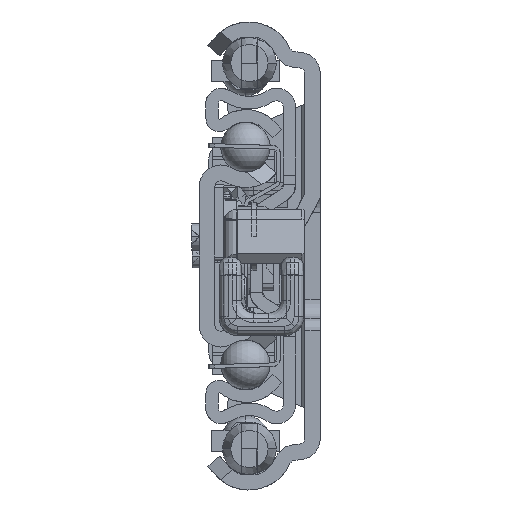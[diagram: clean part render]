
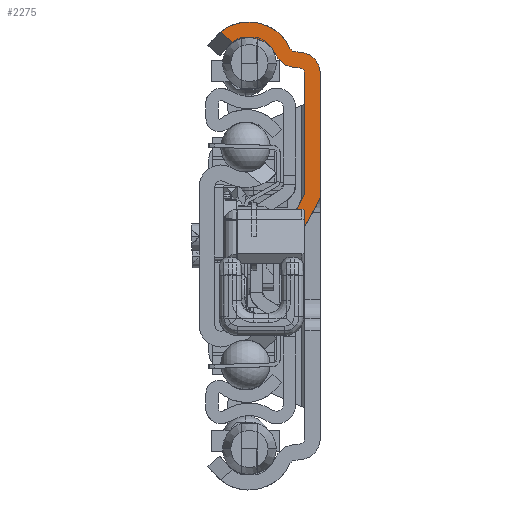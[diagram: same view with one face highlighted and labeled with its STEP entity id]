
A CAD part, left-side view. The second image highlights one B-rep face of the part: STEP entity #2275.
In plain terms, the highlighted planar face has unit normal (-1, 0, 0).
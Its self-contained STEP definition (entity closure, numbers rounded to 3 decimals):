
#1=DIRECTION('',(0.,-0.769,-0.639));
#2=VECTOR('',#1,2.575);
#3=CARTESIAN_POINT('',(0.,16.079,36.021));
#4=LINE('',#3,#2);
#5=CARTESIAN_POINT('',(0.,11.5,30.4));
#6=DIRECTION('',(1.,0.,0.));
#7=DIRECTION('',(0.,0.632,0.775));
#8=AXIS2_PLACEMENT_3D('',#5,#6,#7);
#10=DIRECTION('',(0.,-0.996,-0.087));
#11=VECTOR('',#10,0.904);
#12=CARTESIAN_POINT('',(0.,4.095,32.858));
#13=LINE('',#12,#11);
#14=CARTESIAN_POINT('',(0.,3.5,29.293));
#15=DIRECTION('',(-1.,0.,0.));
#16=DIRECTION('',(0.,-1.,0.));
#17=AXIS2_PLACEMENT_3D('',#14,#15,#16);
#19=CARTESIAN_POINT('',(0.,2.5,9.942));
#20=DIRECTION('',(1.,0.,0.));
#21=DIRECTION('',(0.,-1.,0.));
#22=AXIS2_PLACEMENT_3D('',#19,#20,#21);
#24=DIRECTION('',(0.,-1.,0.));
#25=VECTOR('',#24,2.78);
#26=CARTESIAN_POINT('',(0.,6.177,3.04));
#27=LINE('',#26,#25);
#28=CARTESIAN_POINT('',(0.,0.5,1.099));
#29=DIRECTION('',(-1.,0.,0.));
#30=DIRECTION('',(0.,0.879,0.477));
#31=AXIS2_PLACEMENT_3D('',#28,#29,#30);
#33=DIRECTION('',(0.,0.477,-0.879));
#34=VECTOR('',#33,6.873);
#35=CARTESIAN_POINT('',(0.,2.5,10.));
#36=LINE('',#35,#34);
#37=DIRECTION('',(0.,0.,1.));
#38=VECTOR('',#37,19.293);
#39=CARTESIAN_POINT('',(0.,2.5,10.));
#40=LINE('',#39,#38);
#41=DIRECTION('',(0.,0.996,0.087));
#42=VECTOR('',#41,0.904);
#43=CARTESIAN_POINT('',(0.,3.413,30.289));
#44=LINE('',#43,#42);
#45=CARTESIAN_POINT('',(0.,4.008,33.854));
#46=DIRECTION('',(-1.,0.,0.));
#47=DIRECTION('',(0.,0.908,-0.419));
#48=AXIS2_PLACEMENT_3D('',#45,#46,#47);
#50=CARTESIAN_POINT('',(0.,11.5,30.4));
#51=DIRECTION('',(-1.,0.,0.));
#52=DIRECTION('',(0.,-0.908,0.419));
#53=AXIS2_PLACEMENT_3D('',#50,#51,#52);
#99=CARTESIAN_POINT('',(0.,14.098,34.377));
#147=CARTESIAN_POINT('',(0.,3.5,29.293));
#148=DIRECTION('',(1.,0.,0.));
#149=DIRECTION('',(0.,-0.087,0.996));
#150=AXIS2_PLACEMENT_3D('',#147,#148,#149);
#635=DIRECTION('',(0.,0.,1.));
#636=VECTOR('',#635,19.351);
#637=CARTESIAN_POINT('',(0.,0.,9.942));
#638=LINE('',#637,#636);
#956=CARTESIAN_POINT('',(0.,16.079,
36.021));
#1393=CARTESIAN_POINT('',(0.,4.008,33.854));
#1394=DIRECTION('',(1.,0.,0.));
#1395=DIRECTION('',(0.,0.087,-0.996));
#1396=AXIS2_PLACEMENT_3D('',#1393,#1394,#1395);
#1490=CARTESIAN_POINT('',(0.,3.397,3.04));
#1495=DIRECTION('',(0.,-0.477,0.879));
#1496=VECTOR('',#1495,6.495);
#1497=CARTESIAN_POINT('',(0.,3.397,3.04));
#1498=LINE('',#1497,#1496);
#1741=CARTESIAN_POINT('',(0.,3.413,30.289));
#1742=CARTESIAN_POINT('',(0.,2.5,29.293));
#1743=VERTEX_POINT('',#1741);
#1744=VERTEX_POINT('',#1742);
#1745=CARTESIAN_POINT('',(0.,4.095,32.858));
#1746=CARTESIAN_POINT('',(0.,4.916,33.436));
#1747=VERTEX_POINT('',#1745);
#1748=VERTEX_POINT('',#1746);
#1757=CARTESIAN_POINT('',(0.,7.186,32.389));
#1758=CARTESIAN_POINT('',(0.,4.313,30.368));
#1759=VERTEX_POINT('',#1757);
#1760=VERTEX_POINT('',#1758);
#1761=CARTESIAN_POINT('',(0.,0.,29.293));
#1762=CARTESIAN_POINT('',(0.,3.195,32.78));
#1763=VERTEX_POINT('',#1761);
#1764=VERTEX_POINT('',#1762);
#1857=CARTESIAN_POINT('',(0.,2.5,10.));
#1858=VERTEX_POINT('',#1857);
#1917=CARTESIAN_POINT('',(0.,0.,9.942));
#1919=VERTEX_POINT('',#1917);
#1922=CARTESIAN_POINT('',(0.,0.302,8.751));
#1923=VERTEX_POINT('',#1922);
#1926=CARTESIAN_POINT('',(0.,5.775,3.958));
#1927=VERTEX_POINT('',#1926);
#1928=CARTESIAN_POINT('',(0.,6.177,3.04));
#1929=VERTEX_POINT('',#1928);
#1932=VERTEX_POINT('',#1490);
#2194=VERTEX_POINT('',#99);
#2202=VERTEX_POINT('',#956);
#2236=CARTESIAN_POINT('',(0.,0.,0.));
#2237=DIRECTION('',(1.,0.,0.));
#2238=DIRECTION('',(0.,-1.,0.));
#2239=AXIS2_PLACEMENT_3D('',#2236,#2237,#2238);
#2240=PLANE('',#2239);
#2242=ORIENTED_EDGE('',*,*,#2241,.F.);
#2244=ORIENTED_EDGE('',*,*,#2243,.T.);
#2246=ORIENTED_EDGE('',*,*,#2245,.F.);
#2248=ORIENTED_EDGE('',*,*,#2247,.T.);
#2250=ORIENTED_EDGE('',*,*,#2249,.F.);
#2252=ORIENTED_EDGE('',*,*,#2251,.F.);
#2254=ORIENTED_EDGE('',*,*,#2253,.T.);
#2256=ORIENTED_EDGE('',*,*,#2255,.F.);
#2258=ORIENTED_EDGE('',*,*,#2257,.F.);
#2260=ORIENTED_EDGE('',*,*,#2259,.F.);
#2262=ORIENTED_EDGE('',*,*,#2261,.F.);
#2264=ORIENTED_EDGE('',*,*,#2263,.T.);
#2266=ORIENTED_EDGE('',*,*,#2265,.F.);
#2268=ORIENTED_EDGE('',*,*,#2267,.T.);
#2270=ORIENTED_EDGE('',*,*,#2269,.F.);
#2272=ORIENTED_EDGE('',*,*,#2271,.T.);
#2273=EDGE_LOOP('',(#2242,#2244,#2246,#2248,#2250,#2252,#2254,#2256,#2258,#2260,
#2262,#2264,#2266,#2268,#2270,#2272));
#2274=FACE_OUTER_BOUND('',#2273,.F.);
#9=CIRCLE('',#8,7.25);
#18=CIRCLE('',#17,3.5);
#23=CIRCLE('',#22,2.5);
#32=CIRCLE('',#31,6.);
#49=CIRCLE('',#48,3.5);
#54=CIRCLE('',#53,4.75);
#151=CIRCLE('',#150,1.);
#1397=CIRCLE('',#1396,1.);
#2241=EDGE_CURVE('',#2202,#2194,#4,.T.);
#2243=EDGE_CURVE('',#2202,#1748,#9,.T.);
#2245=EDGE_CURVE('',#1747,#1748,#1397,.T.);
#2247=EDGE_CURVE('',#1747,#1764,#13,.T.);
#2249=EDGE_CURVE('',#1763,#1764,#18,.T.);
#2251=EDGE_CURVE('',#1919,#1763,#638,.T.);
#2253=EDGE_CURVE('',#1919,#1923,#23,.T.);
#2255=EDGE_CURVE('',#1932,#1923,#1498,.T.);
#2257=EDGE_CURVE('',#1929,#1932,#27,.T.);
#2259=EDGE_CURVE('',#1927,#1929,#32,.T.);
#2261=EDGE_CURVE('',#1858,#1927,#36,.T.);
#2263=EDGE_CURVE('',#1858,#1744,#40,.T.);
#2265=EDGE_CURVE('',#1743,#1744,#151,.T.);
#2267=EDGE_CURVE('',#1743,#1760,#44,.T.);
#2269=EDGE_CURVE('',#1759,#1760,#49,.T.);
#2271=EDGE_CURVE('',#1759,#2194,#54,.T.);
#2275=ADVANCED_FACE('',(#2274),#2240,.F.);
